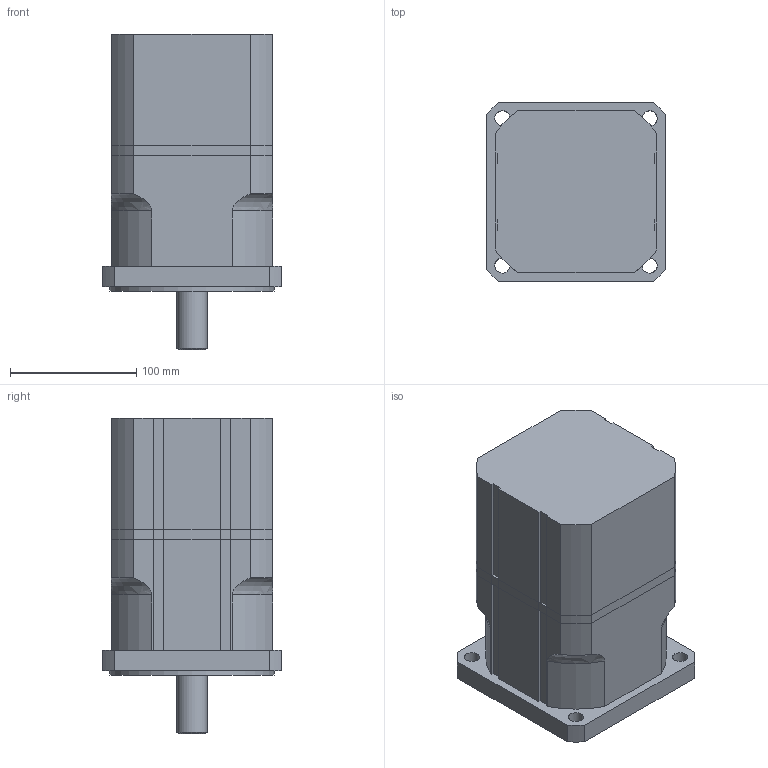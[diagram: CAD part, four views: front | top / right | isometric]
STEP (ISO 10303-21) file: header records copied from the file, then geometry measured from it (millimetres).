
FILE_DESCRIPTION(/* description */ ('Alibre Inc.'),/* implementation_level */ '2;1');
FILE_NAME(/* name */ 'export0',/* time_stamp */ '2010-12-20T10:04:39+01:00',/* author */ (''),/* organization */ (''),/* preprocessor_version */ 'ST-DEVELOPER v12',/* originating_system */ 'Alibre',/* authorisation */ '');
FILE_SCHEMA (('ALIBRE_SCHEMA','CONFIG_CONTROL_DESIGN'));
Length unit declared in the file: millimetre
Products named in the file (4): ID_1
Bounding box: 142 x 142 x 250 mm (x, y, z)
Volume: 3657767.7 mm3; surface area: 201453.1 mm2
Topology: 3 solids, 3 shells, 164 faces, 445 edges, 296 vertices
Faces by surface type: plane 80, cylinder 68, bspline 8, torus 4, cone 4
Full cylindrical faces by diameter (mm): 2.7 x4, 20 x5, 22 x2, 24 x1, 52 x1, 130 x1
Entity records: 17227 total; most frequent: CARTESIAN_POINT 4480, ORIENTED_EDGE 2036, DIRECTION 1986, EDGE_CURVE 1018, AXIS2_PLACEMENT_3D 745, VERTEX_POINT 714, VECTOR 701, LINE 662
